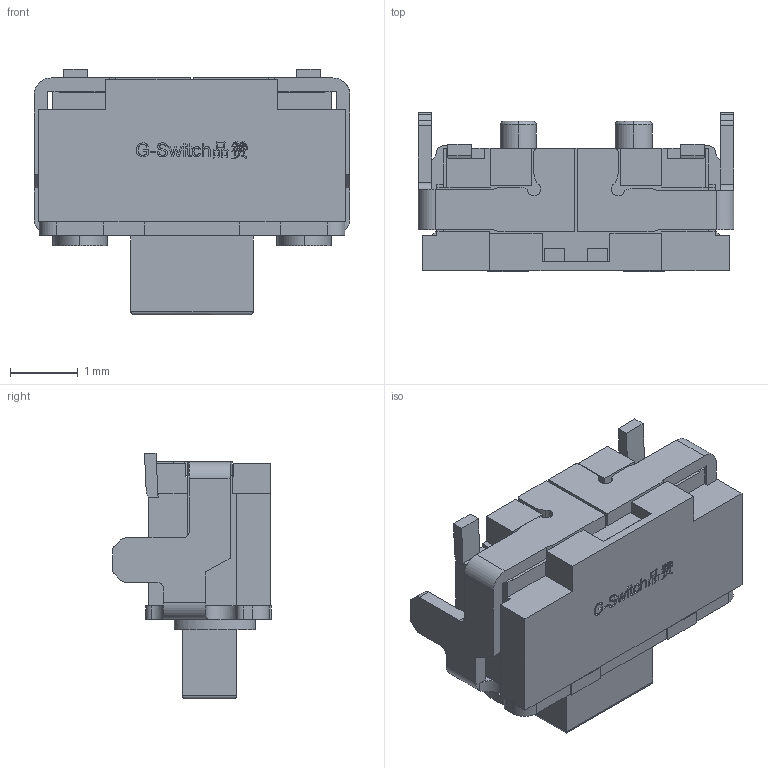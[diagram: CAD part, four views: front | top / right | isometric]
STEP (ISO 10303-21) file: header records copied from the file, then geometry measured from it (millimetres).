
FILE_DESCRIPTION (( 'STEP AP203' ), '1' );
FILE_NAME ('GT-TC020X-H035-LX.STEP', '2025-04-02T04:00:46', ( '' ), ( '' ), 'SwSTEP 2.0', 'SolidWorks 2023', '' );
FILE_SCHEMA (( 'CONFIG_CONTROL_DESIGN' ));
Length unit declared in the file: millimetre
Products named in the file (1): GT-TC020X-H035-LX
Bounding box: 4.65 x 2.34 x 3.62 mm (x, y, z)
Volume: 18.9 mm3; surface area: 76.6 mm2
Topology: 1 solids, 1 shells, 504 faces, 1415 edges, 929 vertices
Faces by surface type: plane 368, bspline 78, cylinder 54, torus 4
Entity records: 19749 total; most frequent: CARTESIAN_POINT 7134, ORIENTED_EDGE 2830, DIRECTION 2221, EDGE_CURVE 1415, LINE 1125, VECTOR 1125, VERTEX_POINT 929, AXIS2_PLACEMENT_3D 548
